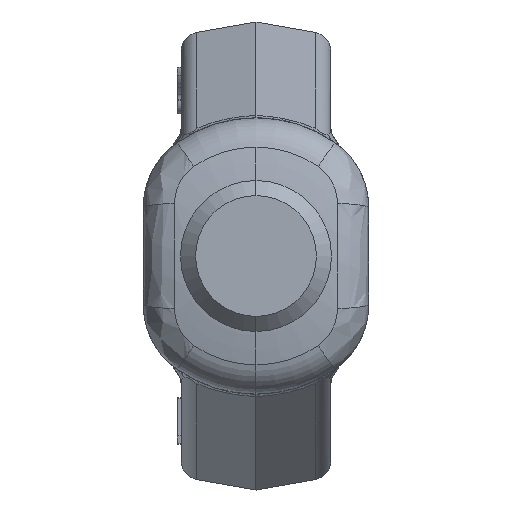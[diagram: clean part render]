
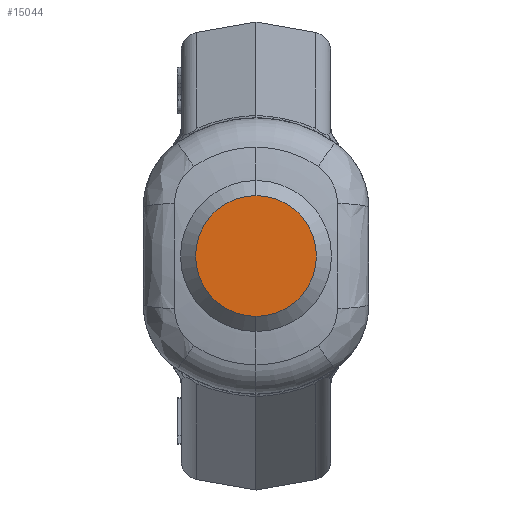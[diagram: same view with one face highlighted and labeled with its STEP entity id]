
A CAD part, left-side view. The second image highlights one B-rep face of the part: STEP entity #15044.
In plain terms, the highlighted planar face has unit normal (-1, 0, 0).
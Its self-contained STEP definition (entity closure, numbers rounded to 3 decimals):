
#6782 = DIRECTION ( 'NONE',  ( -1., 0., 0. ) ) ;
#6783 = CARTESIAN_POINT ( 'NONE',  ( -180., 0., 0. ) ) ;
#6784 = AXIS2_PLACEMENT_3D ( 'NONE', #6783, #6782, #6844 ) ;
#6785 = CIRCLE ( 'NONE', #6784, 8. ) ;
#6787 = CARTESIAN_POINT ( 'NONE',  ( -180., 0., -8. ) ) ;
#6805 = CARTESIAN_POINT ( 'NONE',  ( -180., 0., 8. ) ) ;
#6844 = DIRECTION ( 'NONE',  ( 0., 0., -1. ) ) ;
#6855 = DIRECTION ( 'NONE',  ( 0., 0., -1. ) ) ;
#6856 = DIRECTION ( 'NONE',  ( -1., 0., 0. ) ) ;
#6857 = AXIS2_PLACEMENT_3D ( 'NONE', #6864, #6856, #6855 ) ;
#6858 = CIRCLE ( 'NONE', #6857, 8. ) ;
#6864 = CARTESIAN_POINT ( 'NONE',  ( -180., 0., 0. ) ) ;
#6897 = DIRECTION ( 'NONE',  ( 0., 0., -1. ) ) ;
#6898 = DIRECTION ( 'NONE',  ( 1., 0., 0. ) ) ;
#6899 = CARTESIAN_POINT ( 'NONE',  ( -180., 0., 0. ) ) ;
#6900 = AXIS2_PLACEMENT_3D ( 'NONE', #6899, #6898, #6897 ) ;
#6901 = PLANE ( 'NONE',  #6900 ) ;
#6902 = FACE_OUTER_BOUND ( 'NONE', #15047, .T. ) ;
#14984 = VERTEX_POINT ( 'NONE', #6805 ) ;
#14996 = VERTEX_POINT ( 'NONE', #6787 ) ;
#14997 = EDGE_CURVE ( 'NONE', #14984, #14996, #6785, .T. ) ;
#15025 = EDGE_CURVE ( 'NONE', #14996, #14984, #6858, .T. ) ;
#15026 = ORIENTED_EDGE ( 'NONE', *, *, #14997, .T. ) ;
#15044 = ADVANCED_FACE ( 'NONE', ( #6902 ), #6901, .F. ) ;
#15045 = ORIENTED_EDGE ( 'NONE', *, *, #15025, .T. ) ;
#15047 = EDGE_LOOP ( 'NONE', ( #15045, #15026 ) ) ;
